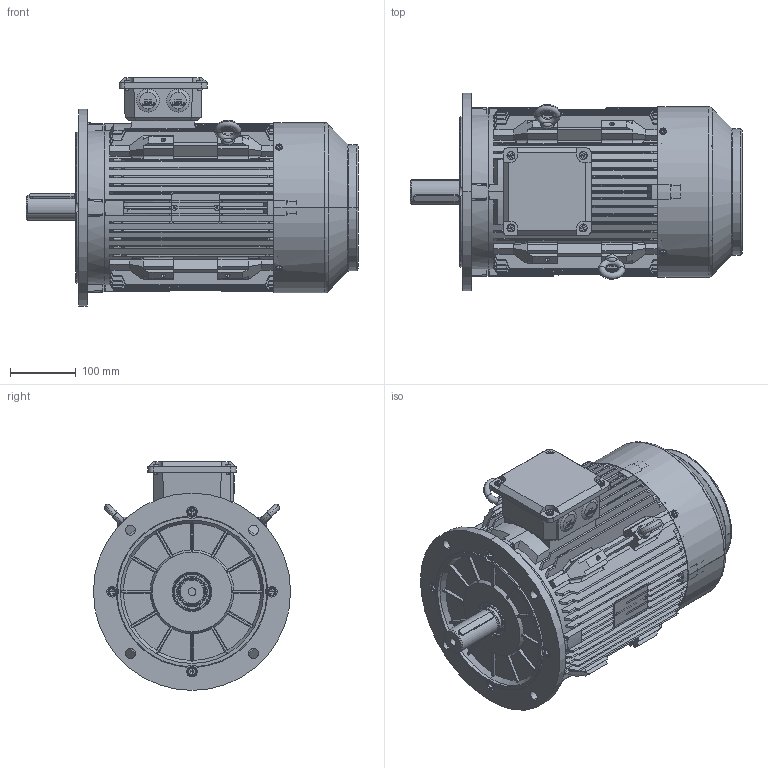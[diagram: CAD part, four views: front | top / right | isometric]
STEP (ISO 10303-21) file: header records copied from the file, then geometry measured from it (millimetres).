
FILE_DESCRIPTION (( 'STEP AP214' ), '1' );
FILE_NAME ('BCT3920.13F405.11.STEP', '2020-04-23T11:14:40', ( '' ), ( '' ), 'SwSTEP 2.0', 'SolidWorks 2019', '' );
FILE_SCHEMA (( 'AUTOMOTIVE_DESIGN' ));
Length unit declared in the file: millimetre
Products named in the file (1): BCT3920.13F405.11
Bounding box: 505 x 300 x 348 mm (x, y, z)
Volume: 4983889.9 mm3; surface area: 1760947.8 mm2
Topology: 33 solids, 33 shells, 3987 faces, 10998 edges, 7181 vertices
Faces by surface type: plane 1928, cylinder 1483, cone 336, bspline 122, torus 118
Entity records: 151492 total; most frequent: CARTESIAN_POINT 49960, ORIENTED_EDGE 21900, DIRECTION 20087, EDGE_CURVE 10950, VERTEX_POINT 7181, AXIS2_PLACEMENT_3D 6900, VECTOR 6287, LINE 6287
